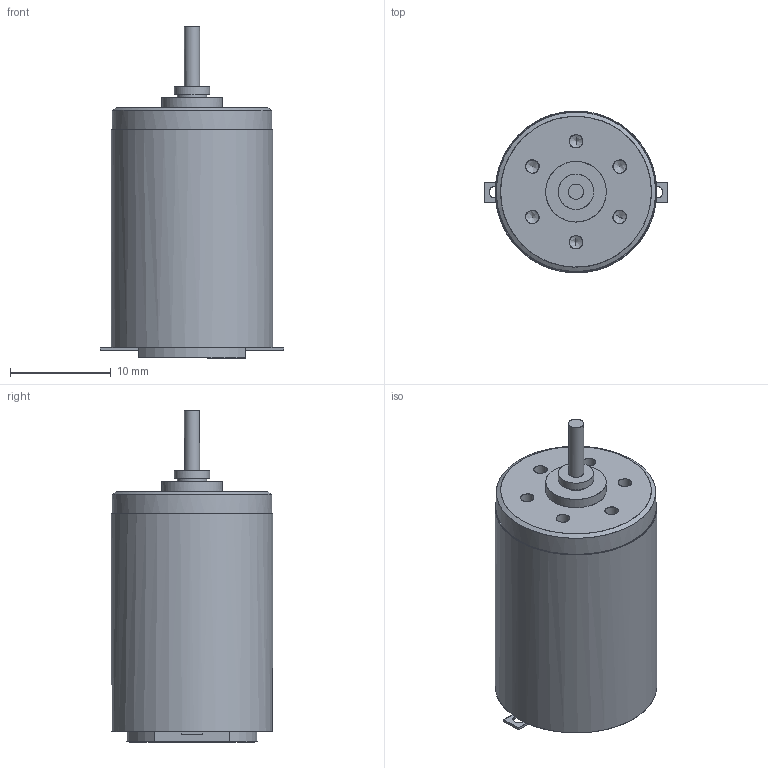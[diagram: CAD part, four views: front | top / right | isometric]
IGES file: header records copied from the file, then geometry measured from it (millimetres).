
Global section: file name: E:\WORK\MISC\DI\MOTORS\2011-11-25\1624TS.igs; native system: NX V7.5; preprocessor: SIEMENS PLM Software NX 7.5; date: 20111221.230317; units: millimetre
Bounding box: 18.2 x 16 x 32.9 mm (x, y, z)
Surface area: 1783.7 mm2 (no closed solid volume)
Topology: 0 solids, 0 shells, 52 faces, 433 edges, 459 vertices
Faces by surface type: bspline 52
